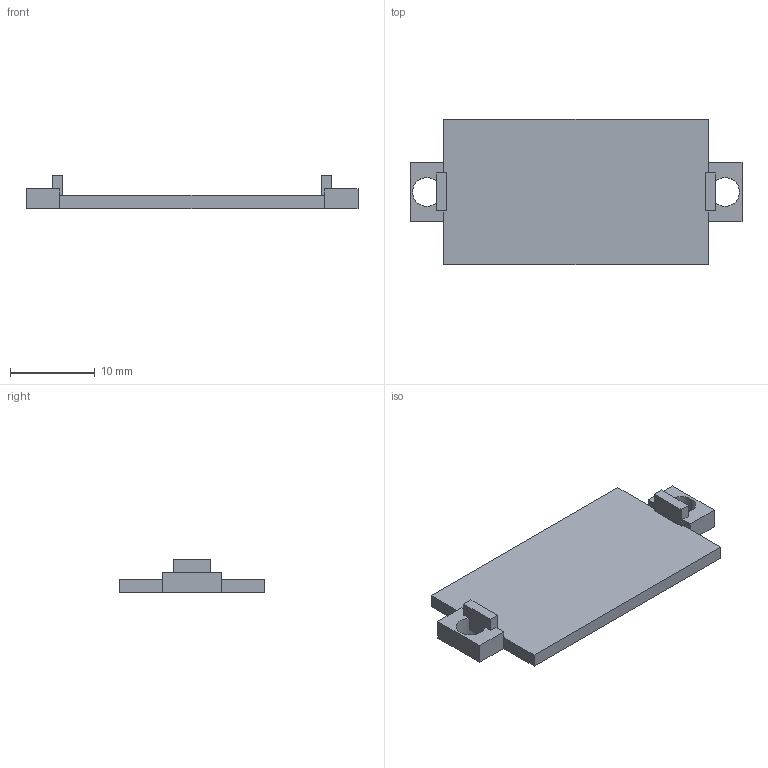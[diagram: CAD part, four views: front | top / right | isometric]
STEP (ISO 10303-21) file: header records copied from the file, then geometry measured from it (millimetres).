
FILE_DESCRIPTION(('FreeCAD Model'),'2;1');
FILE_NAME('Open CASCADE Shape Model','2026-11-20T08:25:38',('FreeCAD'),( 'FreeCAD'),'Open CASCADE STEP processor 7.8','FreeCAD','Unknown');
FILE_SCHEMA(('AUTOMOTIVE_DESIGN { 1 0 10303 214 1 1 1 1 }'));
Length unit declared in the file: millimetre
Products named in the file (1): Open CASCADE STEP translator 7.8 40
Bounding box: 39.2 x 17.2 x 4 mm (x, y, z)
Volume: 972.3 mm3; surface area: 1456.4 mm2
Topology: 1 solids, 1 shells, 34 faces, 98 edges, 64 vertices
Faces by surface type: plane 32, cylinder 2
Full cylindrical faces by diameter (mm): 3.4 x2
Entity records: 1116 total; most frequent: CARTESIAN_POINT 197, ORIENTED_EDGE 196, DIRECTION 176, EDGE_CURVE 98, LINE 90, VECTOR 90, VERTEX_POINT 64, AXIS2_PLACEMENT_3D 43
